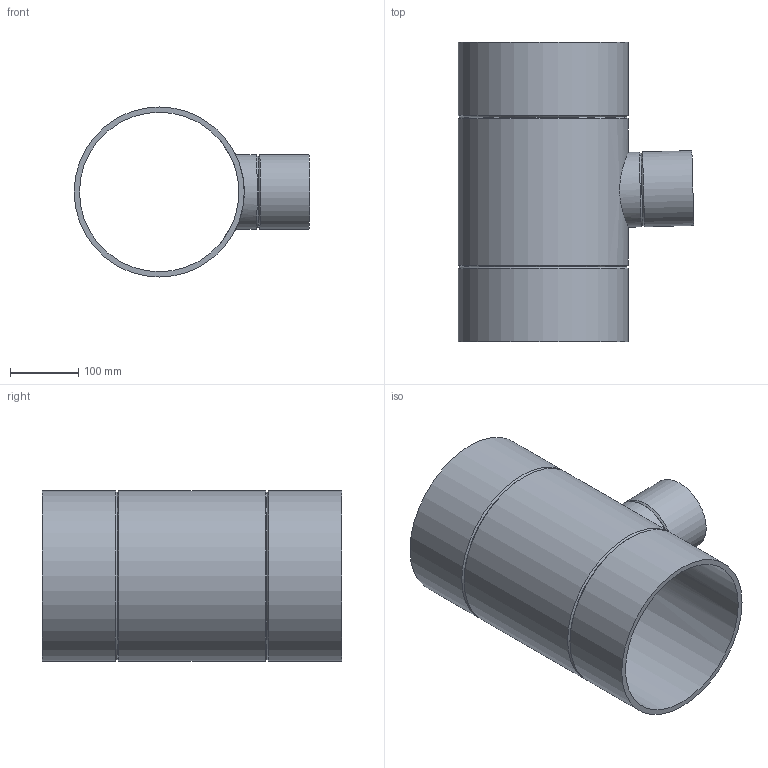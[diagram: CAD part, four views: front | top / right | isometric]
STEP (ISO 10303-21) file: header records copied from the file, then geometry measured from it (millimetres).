
FILE_DESCRIPTION(/* description */ (''),/* implementation_level */ '2;1');
FILE_NAME(/* name */ 'Z:\Geberit\Export\NewStep\371185.stp',/* time_stamp */ '2014-04-02T08:05:14+02:00',/* author */ ('nelson'),/* organization */ (''),/* preprocessor_version */ 'ST-DEVELOPER v15.2',/* originating_system */ 'Autodesk Inventor 2014',/* authorisation */ '');
FILE_SCHEMA (('AUTOMOTIVE_DESIGN { 1 0 10303 214 3 1 1 }'));
Length unit declared in the file: millimetre
Products named in the file (1): 371185
Bounding box: 346.36 x 440 x 250 mm (x, y, z)
Volume: 2677241.9 mm3; surface area: 738233 mm2
Topology: 1 solids, 1 shells, 16 faces, 37 edges, 23 vertices
Faces by surface type: cylinder 7, cone 6, plane 3
Full cylindrical faces by diameter (mm): 101.4 x1, 110 x2, 234.4 x1, 250 x3
Entity records: 503 total; most frequent: CARTESIAN_POINT 181, DIRECTION 64, EDGE_LOOP 34, ORIENTED_EDGE 34, AXIS2_PLACEMENT_3D 32, FACE_BOUND 22, VERTEX_POINT 17, EDGE_CURVE 17
